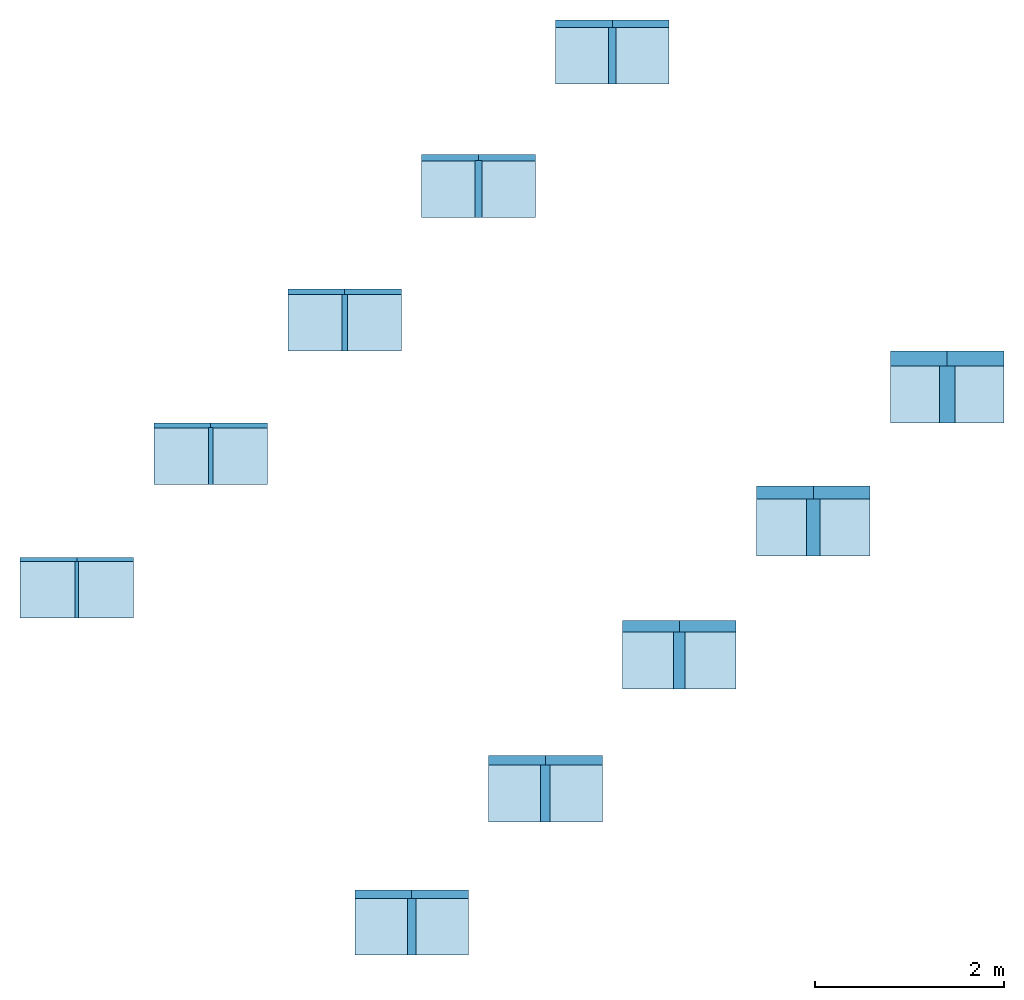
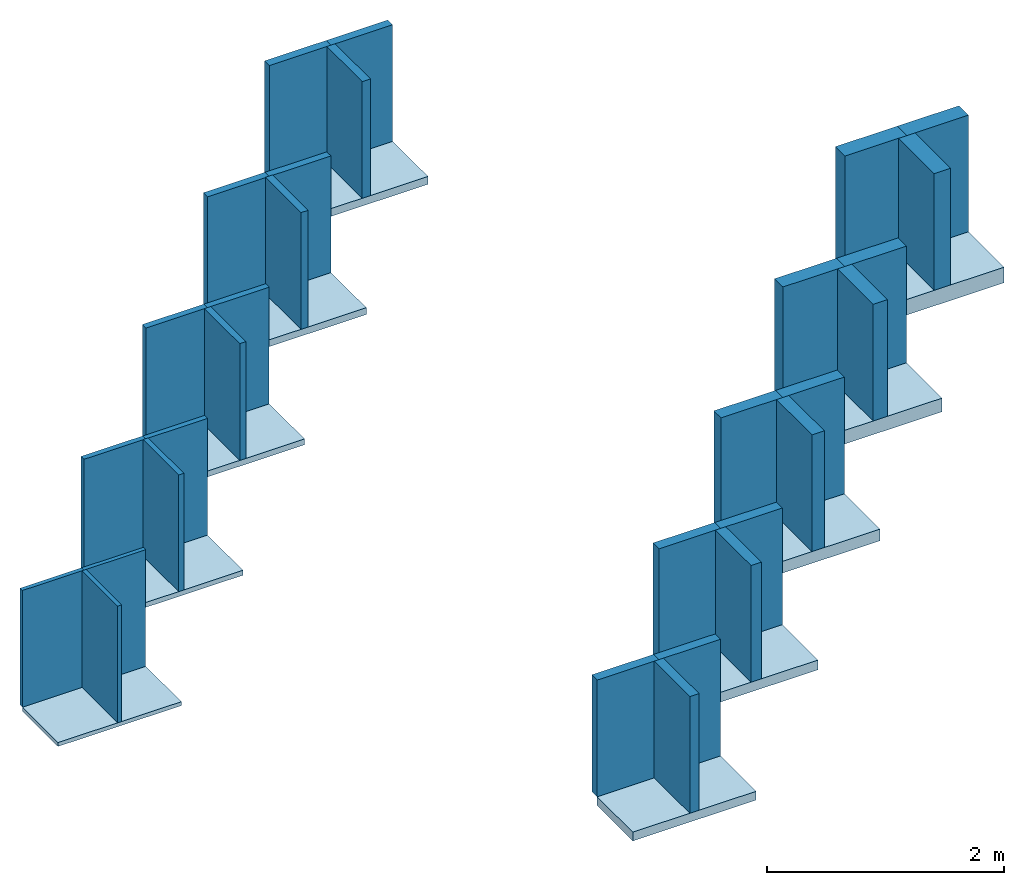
# One storey: 30 walls, 10 slabs.
"""IFC2X3 building model written with IfcOpenShell, lengths in millimetres."""

from ifc_helpers import new_model, entity, si_unit, converted_unit, derived_unit, direction, frame, frame_2d, origin, origin_2d_with_axis, place, context, subcontext, project, spatial, rectangle, extrude, material, layer, layer_set, layer_usage, type_object, element, save


model = new_model("IFC2X3")

# Units and contexts
model_context = context("Model", 3, precision=0.01, world=origin(), true_north=direction((6.12303176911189e-17, 1.0)))
context_of_model = context(None, 3, precision=0.01, world=origin(), true_north=direction((6.12303176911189e-17, 1.0)))
body_context = subcontext(model_context, "Body", "Model", "MODEL_VIEW")
ifc_project = project(units=[si_unit("LENGTHUNIT", "METRE", prefix="MILLI"), si_unit("AREAUNIT", "SQUARE_METRE"), si_unit("VOLUMEUNIT", "CUBIC_METRE"), converted_unit("PLANEANGLEUNIT", "DEGREE", entity("IfcRatioMeasure", 0.0174532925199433), si_unit("PLANEANGLEUNIT", "RADIAN"), dimensions=[0, 0, 0, 0, 0, 0, 0]), si_unit("MASSUNIT", "GRAM", prefix="KILO"), derived_unit("MASSDENSITYUNIT", [(si_unit("MASSUNIT", "GRAM", prefix="KILO"), 1), (si_unit("LENGTHUNIT", "METRE"), -3)]), derived_unit("MOMENTOFINERTIAUNIT", [(si_unit("LENGTHUNIT", "METRE"), 4)]), si_unit("TIMEUNIT", "SECOND"), si_unit("FREQUENCYUNIT", "HERTZ"), si_unit("THERMODYNAMICTEMPERATUREUNIT", "DEGREE_CELSIUS"), derived_unit("THERMALTRANSMITTANCEUNIT", [(si_unit("MASSUNIT", "GRAM", prefix="KILO"), 1), (si_unit("THERMODYNAMICTEMPERATUREUNIT", "KELVIN"), -1), (si_unit("TIMEUNIT", "SECOND"), -3)]), derived_unit("VOLUMETRICFLOWRATEUNIT", [(si_unit("LENGTHUNIT", "METRE"), 3), (si_unit("TIMEUNIT", "SECOND"), -1)]), si_unit("ELECTRICCURRENTUNIT", "AMPERE"), si_unit("ELECTRICVOLTAGEUNIT", "VOLT"), si_unit("POWERUNIT", "WATT"), si_unit("FORCEUNIT", "NEWTON", prefix="KILO"), si_unit("ILLUMINANCEUNIT", "LUX"), si_unit("LUMINOUSFLUXUNIT", "LUMEN"), si_unit("LUMINOUSINTENSITYUNIT", "CANDELA"), derived_unit("USERDEFINED", [(si_unit("MASSUNIT", "GRAM", prefix="KILO"), -1), (si_unit("LENGTHUNIT", "METRE"), -2), (si_unit("TIMEUNIT", "SECOND"), 3), (si_unit("LUMINOUSFLUXUNIT", "LUMEN"), 1)]), derived_unit("LINEARVELOCITYUNIT", [(si_unit("LENGTHUNIT", "METRE"), 1), (si_unit("TIMEUNIT", "SECOND"), -1)]), si_unit("PRESSUREUNIT", "PASCAL"), derived_unit("USERDEFINED", [(si_unit("LENGTHUNIT", "METRE"), -2), (si_unit("MASSUNIT", "GRAM", prefix="KILO"), 1), (si_unit("TIMEUNIT", "SECOND"), -2)]), derived_unit("LINEARFORCEUNIT", [(si_unit("MASSUNIT", "GRAM", prefix="KILO"), 1), (si_unit("LENGTHUNIT", "METRE"), 1), (si_unit("TIMEUNIT", "SECOND"), -2), (si_unit("LENGTHUNIT", "METRE"), -1)]), derived_unit("PLANARFORCEUNIT", [(si_unit("MASSUNIT", "GRAM", prefix="KILO"), 1), (si_unit("LENGTHUNIT", "METRE"), 1), (si_unit("TIMEUNIT", "SECOND"), -2), (si_unit("LENGTHUNIT", "METRE"), -2)])], contexts=[model_context, context_of_model])

# Site, building, storey
site_placement = place(None, origin())
site = spatial("IfcSite", under=ifc_project, at=site_placement, Name="Default", CompositionType="ELEMENT")
building_placement = place(site_placement, origin())
building = spatial("IfcBuilding", under=site, at=building_placement, CompositionType="ELEMENT")
storey_placement = place(building_placement, origin())
storey = spatial("IfcBuildingStorey", under=building, at=storey_placement, Name="Begane grond", CompositionType="ELEMENT", Elevation=0.0)

# Slabs
ifc_material = material(Name="Knauf Insulation_Ecose® steenwol Rock4All")
ifc_layer_1 = layer(ifc_material, 40.0)
ifc_layer_set_1 = layer_set([ifc_layer_1], Name="Floor:NLRS_23_FL_Rock4all_40x600x1200mm")
ifc_layer_usage_1 = layer_usage(ifc_layer_set_1, "AXIS3", "POSITIVE", 0.0)
slab_type_1 = type_object("IfcSlabType", Name="Floor:NLRS_23_FL_Rock4all_40x600x1200mm", PredefinedType="FLOOR", material=ifc_layer_set_1)
slab_1_placement = place(storey_placement, origin())
element("IfcSlab", 1, at=slab_1_placement, inside=storey, type_object=slab_type_1, material=ifc_layer_usage_1, Name="Floor:NLRS_23_FL_Rock4all_40x600x1200mm:2452", ObjectType="Floor:NLRS_23_FL_Rock4all_40x600x1200mm", PredefinedType="FLOOR", context=body_context, shape_type="SweptSolid", body=[
    extrude(rectangle(XDim=599.999999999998, YDim=1200.0, at=frame_2d((1.13686837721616e-13, 0.0), x_axis=(1.0, 0.0))), frame((1546.63638593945, 2173.76259721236, 0.0), z_axis=(0.0, 0.0, -1.0), x_axis=(0.0, 1.0, 0.0)), (0.0, 0.0, 1.0), 40.0),
])
ifc_layer_2 = layer(ifc_material, 50.0)
ifc_layer_set_2 = layer_set([ifc_layer_2], Name="Floor:NLRS_23_FL_Rock4all_50x600x1200mm")
ifc_layer_usage_2 = layer_usage(ifc_layer_set_2, "AXIS3", "POSITIVE", 0.0)
slab_type_2 = type_object("IfcSlabType", Name="Floor:NLRS_23_FL_Rock4all_50x600x1200mm", PredefinedType="FLOOR", material=ifc_layer_set_2)
slab_2_placement = place(storey_placement, origin())
element("IfcSlab", 2, at=slab_2_placement, inside=storey, type_object=slab_type_2, material=ifc_layer_usage_2, Name="Floor:NLRS_23_FL_Rock4all_50x600x1200mm:2487", ObjectType="Floor:NLRS_23_FL_Rock4all_50x600x1200mm", PredefinedType="FLOOR", context=body_context, shape_type="SweptSolid", body=[
    extrude(rectangle(XDim=599.999999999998, YDim=1200.0, at=frame_2d((0.0, -2.27373675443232e-13), x_axis=(1.0, 0.0))), frame((2960.84994831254, 3585.47615958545, 0.0), z_axis=(0.0, 0.0, -1.0), x_axis=(0.0, 1.0, 0.0)), (0.0, 0.0, 1.0), 50.0),
])
ifc_layer_3 = layer(ifc_material, 60.0)
ifc_layer_set_3 = layer_set([ifc_layer_3], Name="Floor:NLRS_23_FL_Rock4all_60x600x1200mm")
ifc_layer_usage_3 = layer_usage(ifc_layer_set_3, "AXIS3", "POSITIVE", 0.0)
slab_type_3 = type_object("IfcSlabType", Name="Floor:NLRS_23_FL_Rock4all_60x600x1200mm", PredefinedType="FLOOR", material=ifc_layer_set_3)
slab_3_placement = place(storey_placement, origin())
element("IfcSlab", 3, at=slab_3_placement, inside=storey, type_object=slab_type_3, material=ifc_layer_usage_3, Name="Floor:NLRS_23_FL_Rock4all_60x600x1200mm:2494", ObjectType="Floor:NLRS_23_FL_Rock4all_60x600x1200mm", PredefinedType="FLOOR", context=body_context, shape_type="SweptSolid", body=[
    extrude(rectangle(XDim=599.999999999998, YDim=1200.0, at=frame_2d((-2.8421709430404e-13, 0.0), x_axis=(1.0, 0.0))), frame((4375.06351068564, 4997.18972195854, 0.0), z_axis=(0.0, 0.0, -1.0), x_axis=(0.0, 1.0, 0.0)), (0.0, 0.0, 1.0), 60.0),
])
ifc_layer_4 = layer(ifc_material, 70.0)
ifc_layer_set_4 = layer_set([ifc_layer_4], Name="Floor:NLRS_23_FL_Rock4all_70x600x1200mm")
ifc_layer_usage_4 = layer_usage(ifc_layer_set_4, "AXIS3", "POSITIVE", 0.0)
slab_type_4 = type_object("IfcSlabType", Name="Floor:NLRS_23_FL_Rock4all_70x600x1200mm", PredefinedType="FLOOR", material=ifc_layer_set_4)
slab_4_placement = place(storey_placement, origin())
element("IfcSlab", 4, at=slab_4_placement, inside=storey, type_object=slab_type_4, material=ifc_layer_usage_4, Name="Floor:NLRS_23_FL_Rock4all_70x600x1200mm:2501", ObjectType="Floor:NLRS_23_FL_Rock4all_70x600x1200mm", PredefinedType="FLOOR", context=body_context, shape_type="SweptSolid", body=[
    extrude(rectangle(XDim=599.999999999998, YDim=1200.0, at=frame_2d((0.0, -5.11590769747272e-13), x_axis=(1.0, 0.0))), frame((5789.27707305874, 6406.40328433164, 0.0), z_axis=(0.0, 0.0, -1.0), x_axis=(0.0, 1.0, 0.0)), (0.0, 0.0, 1.0), 70.0),
])
ifc_layer_5 = layer(ifc_material, 80.0)
ifc_layer_set_5 = layer_set([ifc_layer_5], Name="Floor:NLRS_23_FL_Rock4all_80x600x1200mm")
ifc_layer_usage_5 = layer_usage(ifc_layer_set_5, "AXIS3", "POSITIVE", 0.0)
slab_type_5 = type_object("IfcSlabType", Name="Floor:NLRS_23_FL_Rock4all_80x600x1200mm", PredefinedType="FLOOR", material=ifc_layer_set_5)
slab_5_placement = place(storey_placement, origin())
element("IfcSlab", 5, at=slab_5_placement, inside=storey, type_object=slab_type_5, material=ifc_layer_usage_5, Name="Floor:NLRS_23_FL_Rock4all_80x600x1200mm:4345", ObjectType="Floor:NLRS_23_FL_Rock4all_80x600x1200mm", PredefinedType="FLOOR", context=body_context, shape_type="SweptSolid", body=[
    extrude(rectangle(XDim=600.0, YDim=1200.0, at=frame_2d((0.0, 5.11590769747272e-13), x_axis=(1.0, 0.0))), frame((7203.49063543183, 7815.61684670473, 0.0), z_axis=(0.0, 0.0, -1.0), x_axis=(0.0, 1.0, 0.0)), (0.0, 0.0, 1.0), 80.0),
])
ifc_layer_6 = layer(ifc_material, 90.0)
ifc_layer_set_6 = layer_set([ifc_layer_6], Name="Floor:NLRS_23_FL_Rock4all_90x600x1200mm")
ifc_layer_usage_6 = layer_usage(ifc_layer_set_6, "AXIS3", "POSITIVE", 0.0)
slab_type_6 = type_object("IfcSlabType", Name="Floor:NLRS_23_FL_Rock4all_90x600x1200mm", PredefinedType="FLOOR", material=ifc_layer_set_6)
slab_6_placement = place(storey_placement, origin())
element("IfcSlab", 6, at=slab_6_placement, inside=storey, type_object=slab_type_6, material=ifc_layer_usage_6, Name="Floor:NLRS_23_FL_Rock4all_90x600x1200mm:4387", ObjectType="Floor:NLRS_23_FL_Rock4all_90x600x1200mm", PredefinedType="FLOOR", context=body_context, shape_type="SweptSolid", body=[
    extrude(rectangle(XDim=600.0, YDim=1200.0, at=frame_2d((8.5265128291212e-14, 0.0), x_axis=(1.0, 0.0))), frame((5082.17029187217, -1386.77130872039, 0.0), z_axis=(0.0, 0.0, -1.0), x_axis=(0.0, 1.0, 0.0)), (0.0, 0.0, 1.0), 90.0),
])
ifc_layer_7 = layer(ifc_material, 100.0)
ifc_layer_set_7 = layer_set([ifc_layer_7], Name="Floor:NLRS_23_FL_Rock4all_100x600x1200mm")
ifc_layer_usage_7 = layer_usage(ifc_layer_set_7, "AXIS3", "POSITIVE", 0.0)
slab_type_7 = type_object("IfcSlabType", Name="Floor:NLRS_23_FL_Rock4all_100x600x1200mm", PredefinedType="FLOOR", material=ifc_layer_set_7)
slab_7_placement = place(storey_placement, origin())
element("IfcSlab", 7, at=slab_7_placement, inside=storey, type_object=slab_type_7, material=ifc_layer_usage_7, Name="Floor:NLRS_23_FL_Rock4all_100x600x1200mm:4768", ObjectType="Floor:NLRS_23_FL_Rock4all_100x600x1200mm", PredefinedType="FLOOR", context=body_context, shape_type="SweptSolid", body=[
    extrude(rectangle(XDim=600.0, YDim=1200.0, at=origin_2d_with_axis()), frame((6496.38385424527, 22.4422536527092, 0.0), z_axis=(0.0, 0.0, -1.0), x_axis=(0.0, 1.0, 0.0)), (0.0, 0.0, 1.0), 100.0),
])
ifc_layer_8 = layer(ifc_material, 120.0)
ifc_layer_set_8 = layer_set([ifc_layer_8], Name="Floor:NLRS_23_FL_Rock4all_120x600x1200mm")
ifc_layer_usage_8 = layer_usage(ifc_layer_set_8, "AXIS3", "POSITIVE", 0.0)
slab_type_8 = type_object("IfcSlabType", Name="Floor:NLRS_23_FL_Rock4all_120x600x1200mm", PredefinedType="FLOOR", material=ifc_layer_set_8)
slab_8_placement = place(storey_placement, origin())
element("IfcSlab", 8, at=slab_8_placement, inside=storey, type_object=slab_type_8, material=ifc_layer_usage_8, Name="Floor:NLRS_23_FL_Rock4all_120x600x1200mm:4821", ObjectType="Floor:NLRS_23_FL_Rock4all_120x600x1200mm", PredefinedType="FLOOR", context=body_context, shape_type="SweptSolid", body=[
    extrude(rectangle(XDim=600.0, YDim=1200.0, at=origin_2d_with_axis()), frame((7910.59741661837, 1426.6558160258, 0.0), z_axis=(0.0, 0.0, -1.0), x_axis=(0.0, 1.0, 0.0)), (0.0, 0.0, 1.0), 120.0),
])
ifc_layer_9 = layer(ifc_material, 140.0)
ifc_layer_set_9 = layer_set([ifc_layer_9], Name="Floor:NLRS_23_FL_Rock4all_140x600x1200mm")
ifc_layer_usage_9 = layer_usage(ifc_layer_set_9, "AXIS3", "POSITIVE", 0.0)
slab_type_9 = type_object("IfcSlabType", Name="Floor:NLRS_23_FL_Rock4all_140x600x1200mm", PredefinedType="FLOOR", material=ifc_layer_set_9)
slab_9_placement = place(storey_placement, origin())
element("IfcSlab", 9, at=slab_9_placement, inside=storey, type_object=slab_type_9, material=ifc_layer_usage_9, Name="Floor:NLRS_23_FL_Rock4all_140x600x1200mm:4830", ObjectType="Floor:NLRS_23_FL_Rock4all_140x600x1200mm", PredefinedType="FLOOR", context=body_context, shape_type="SweptSolid", body=[
    extrude(rectangle(XDim=600.0, YDim=1200.0, at=origin_2d_with_axis()), frame((9324.81097899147, 2830.86937839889, 0.0), z_axis=(0.0, 0.0, -1.0), x_axis=(0.0, 1.0, 0.0)), (0.0, 0.0, 1.0), 140.0),
])
ifc_layer_10 = layer(ifc_material, 160.0)
ifc_layer_set_10 = layer_set([ifc_layer_10], Name="Floor:NLRS_23_FL_Rock4all_160x600x1200mm")
ifc_layer_usage_10 = layer_usage(ifc_layer_set_10, "AXIS3", "POSITIVE", 0.0)
slab_type_10 = type_object("IfcSlabType", Name="Floor:NLRS_23_FL_Rock4all_160x600x1200mm", PredefinedType="FLOOR", material=ifc_layer_set_10)
slab_10_placement = place(storey_placement, origin())
element("IfcSlab", 10, at=slab_10_placement, inside=storey, type_object=slab_type_10, material=ifc_layer_usage_10, Name="Floor:NLRS_23_FL_Rock4all_160x600x1200mm:4839", ObjectType="Floor:NLRS_23_FL_Rock4all_160x600x1200mm", PredefinedType="FLOOR", context=body_context, shape_type="SweptSolid", body=[
    extrude(rectangle(XDim=600.0, YDim=1200.0, at=origin_2d_with_axis()), frame((10739.0245413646, 4235.08294077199, 0.0), z_axis=(0.0, 0.0, -1.0), x_axis=(0.0, 1.0, 0.0)), (0.0, 0.0, 1.0), 160.0),
])

# Walls
ifc_layer_11 = layer(ifc_material, 40.0)
ifc_layer_set_11 = layer_set([ifc_layer_11], Name="Basic Wall:NLRS_22_WA__Rock4all_40x600x1200mm")
ifc_layer_usage_11 = layer_usage(ifc_layer_set_11, "AXIS2", "NEGATIVE", 20.0)
wall_type_1 = type_object("IfcWallType", Name="Basic Wall:NLRS_22_WA__Rock4all_40x600x1200mm", PredefinedType="STANDARD", material=ifc_layer_set_11)
wall_1_placement = place(storey_placement, frame((946.636385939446, 2493.76259721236, 0.0)))
element("IfcWallStandardCase", 11, at=wall_1_placement, inside=storey, type_object=wall_type_1, material=ifc_layer_usage_11, Name="Basic Wall:NLRS_22_WA__Rock4all_40x600x1200mm:2447", ObjectType="Basic Wall:NLRS_22_WA__Rock4all_40x600x1200mm", context=body_context, shape_type="SweptSolid", body=[
    extrude(rectangle(XDim=600.0, YDim=39.9999999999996, at=frame_2d((300.0, -1.35003119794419e-13), x_axis=(-1.0, 0.0))), origin(), (0.0, 0.0, 1.0), 1200.0),
])
ifc_layer_usage_12 = layer_usage(ifc_layer_set_11, "AXIS2", "NEGATIVE", 20.0)
wall_2_placement = place(storey_placement, frame((1546.63638593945, 2473.76259721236, 0.0), z_axis=(0.0, 0.0, 1.0), x_axis=(0.0, -1.0, 0.0)))
element("IfcWallStandardCase", 12, at=wall_2_placement, inside=storey, type_object=wall_type_1, material=ifc_layer_usage_12, Name="Basic Wall:NLRS_22_WA__Rock4all_40x600x1200mm:2448", ObjectType="Basic Wall:NLRS_22_WA__Rock4all_40x600x1200mm", context=body_context, shape_type="SweptSolid", body=[
    extrude(rectangle(XDim=600.0, YDim=40.0000000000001, at=frame_2d((300.0, 5.50670620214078e-14), x_axis=(-1.0, 0.0))), origin(), (0.0, 0.0, 1.0), 1200.0),
])
ifc_layer_usage_13 = layer_usage(ifc_layer_set_11, "AXIS2", "NEGATIVE", 20.0)
wall_3_placement = place(storey_placement, frame((1546.63638593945, 2493.76259721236, 0.0)))
element("IfcWallStandardCase", 13, at=wall_3_placement, inside=storey, type_object=wall_type_1, material=ifc_layer_usage_13, Name="Basic Wall:NLRS_22_WA__Rock4all_40x600x1200mm:2457", ObjectType="Basic Wall:NLRS_22_WA__Rock4all_40x600x1200mm", context=body_context, shape_type="SweptSolid", body=[
    extrude(rectangle(XDim=600.0, YDim=39.9999999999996, at=frame_2d((300.0, -1.35003119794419e-13), x_axis=(-1.0, 0.0))), origin(), (0.0, 0.0, 1.0), 1200.0),
])
ifc_layer_12 = layer(ifc_material, 50.0)
ifc_layer_set_12 = layer_set([ifc_layer_12], Name="Basic Wall:NLRS_22_WA_Rock4all_50xx600x1200mm")
ifc_layer_usage_14 = layer_usage(ifc_layer_set_12, "AXIS2", "NEGATIVE", 25.0)
wall_type_2 = type_object("IfcWallType", Name="Basic Wall:NLRS_22_WA_Rock4all_50xx600x1200mm", PredefinedType="STANDARD", material=ifc_layer_set_12)
wall_4_placement = place(storey_placement, frame((2360.84994831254, 3907.97615958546, 0.0)))
element("IfcWallStandardCase", 14, at=wall_4_placement, inside=storey, type_object=wall_type_2, material=ifc_layer_usage_14, Name="Basic Wall:NLRS_22_WA_Rock4all_50xx600x1200mm:2458", ObjectType="Basic Wall:NLRS_22_WA_Rock4all_50xx600x1200mm", context=body_context, shape_type="SweptSolid", body=[
    extrude(rectangle(XDim=600.0, YDim=50.0000000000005, at=frame_2d((300.0, -1.36779476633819e-13), x_axis=(-1.0, 0.0))), origin(), (0.0, 0.0, 1.0), 1200.0),
])
ifc_layer_usage_15 = layer_usage(ifc_layer_set_12, "AXIS2", "NEGATIVE", 25.0)
wall_5_placement = place(storey_placement, frame((2960.84994831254, 3885.47615958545, 0.0), z_axis=(0.0, 0.0, 1.0), x_axis=(0.0, -1.0, 0.0)))
element("IfcWallStandardCase", 15, at=wall_5_placement, inside=storey, type_object=wall_type_2, material=ifc_layer_usage_15, Name="Basic Wall:NLRS_22_WA_Rock4all_50xx600x1200mm:2459", ObjectType="Basic Wall:NLRS_22_WA_Rock4all_50xx600x1200mm", context=body_context, shape_type="SweptSolid", body=[
    extrude(rectangle(XDim=600.0, YDim=49.9999999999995, at=frame_2d((300.0, -6.75015598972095e-14), x_axis=(-1.0, 0.0))), origin(), (0.0, 0.0, 1.0), 1200.0),
])
ifc_layer_usage_16 = layer_usage(ifc_layer_set_12, "AXIS2", "NEGATIVE", 25.0)
wall_6_placement = place(storey_placement, frame((2960.84994831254, 3907.97615958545, 0.0)))
element("IfcWallStandardCase", 16, at=wall_6_placement, inside=storey, type_object=wall_type_2, material=ifc_layer_usage_16, Name="Basic Wall:NLRS_22_WA_Rock4all_50xx600x1200mm:2460", ObjectType="Basic Wall:NLRS_22_WA_Rock4all_50xx600x1200mm", context=body_context, shape_type="SweptSolid", body=[
    extrude(rectangle(XDim=600.0, YDim=50.0000000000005, at=frame_2d((300.0, -1.36779476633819e-13), x_axis=(-1.0, 0.0))), origin(), (0.0, 0.0, 1.0), 1200.0),
])
ifc_layer_13 = layer(ifc_material, 60.0)
ifc_layer_set_13 = layer_set([ifc_layer_13], Name="Basic Wall:NLRS_22_WA__Rock4all_60x600x1200mm")
ifc_layer_usage_17 = layer_usage(ifc_layer_set_13, "AXIS2", "NEGATIVE", 30.0)
wall_type_3 = type_object("IfcWallType", Name="Basic Wall:NLRS_22_WA__Rock4all_60x600x1200mm", PredefinedType="STANDARD", material=ifc_layer_set_13)
wall_7_placement = place(storey_placement, frame((3775.06351068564, 5322.18972195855, 0.0)))
element("IfcWallStandardCase", 17, at=wall_7_placement, inside=storey, type_object=wall_type_3, material=ifc_layer_usage_17, Name="Basic Wall:NLRS_22_WA__Rock4all_60x600x1200mm:2461", ObjectType="Basic Wall:NLRS_22_WA__Rock4all_60x600x1200mm", context=body_context, shape_type="SweptSolid", body=[
    extrude(rectangle(XDim=600.0, YDim=59.9999999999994, at=frame_2d((300.0, -1.35003119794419e-13), x_axis=(-1.0, 0.0))), origin(), (0.0, 0.0, 1.0), 1200.0),
])
ifc_layer_usage_18 = layer_usage(ifc_layer_set_13, "AXIS2", "NEGATIVE", 30.0)
wall_8_placement = place(storey_placement, frame((4375.06351068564, 5297.18972195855, 0.0), z_axis=(0.0, 0.0, 1.0), x_axis=(0.0, -1.0, 0.0)))
element("IfcWallStandardCase", 18, at=wall_8_placement, inside=storey, type_object=wall_type_3, material=ifc_layer_usage_18, Name="Basic Wall:NLRS_22_WA__Rock4all_60x600x1200mm:2462", ObjectType="Basic Wall:NLRS_22_WA__Rock4all_60x600x1200mm", context=body_context, shape_type="SweptSolid", body=[
    extrude(rectangle(XDim=600.0, YDim=60.0000000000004, at=frame_2d((300.0, -6.92779167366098e-14), x_axis=(-1.0, 0.0))), origin(), (0.0, 0.0, 1.0), 1200.0),
])
ifc_layer_usage_19 = layer_usage(ifc_layer_set_13, "AXIS2", "NEGATIVE", 30.0)
wall_9_placement = place(storey_placement, frame((4375.06351068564, 5322.18972195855, 0.0)))
element("IfcWallStandardCase", 19, at=wall_9_placement, inside=storey, type_object=wall_type_3, material=ifc_layer_usage_19, Name="Basic Wall:NLRS_22_WA__Rock4all_60x600x1200mm:2463", ObjectType="Basic Wall:NLRS_22_WA__Rock4all_60x600x1200mm", context=body_context, shape_type="SweptSolid", body=[
    extrude(rectangle(XDim=600.0, YDim=59.9999999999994, at=frame_2d((300.0, -1.35003119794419e-13), x_axis=(-1.0, 0.0))), origin(), (0.0, 0.0, 1.0), 1200.0),
])
ifc_layer_14 = layer(ifc_material, 70.0)
ifc_layer_set_14 = layer_set([ifc_layer_14], Name="Basic Wall:NLRS_22_WA_Rock4all_70x600x1200mm")
ifc_layer_usage_20 = layer_usage(ifc_layer_set_14, "AXIS2", "NEGATIVE", 35.0)
wall_type_4 = type_object("IfcWallType", Name="Basic Wall:NLRS_22_WA_Rock4all_70x600x1200mm", PredefinedType="STANDARD", material=ifc_layer_set_14)
wall_10_placement = place(storey_placement, frame((5189.27707305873, 6736.40328433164, 0.0)))
element("IfcWallStandardCase", 20, at=wall_10_placement, inside=storey, type_object=wall_type_4, material=ifc_layer_usage_20, Name="Basic Wall:NLRS_22_WA_Rock4all_70x600x1200mm:2464", ObjectType="Basic Wall:NLRS_22_WA_Rock4all_70x600x1200mm", context=body_context, shape_type="SweptSolid", body=[
    extrude(rectangle(XDim=599.999999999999, YDim=69.9999999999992, at=frame_2d((299.999999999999, -1.35003119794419e-13), x_axis=(-1.0, 0.0))), origin(), (0.0, 0.0, 1.0), 1200.0),
])
ifc_layer_usage_21 = layer_usage(ifc_layer_set_14, "AXIS2", "NEGATIVE", 35.0)
wall_11_placement = place(storey_placement, frame((5789.27707305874, 6706.40328433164, 0.0), z_axis=(0.0, 0.0, 1.0), x_axis=(0.0, -1.0, 0.0)))
element("IfcWallStandardCase", 21, at=wall_11_placement, inside=storey, type_object=wall_type_4, material=ifc_layer_usage_21, Name="Basic Wall:NLRS_22_WA_Rock4all_70x600x1200mm:2465", ObjectType="Basic Wall:NLRS_22_WA_Rock4all_70x600x1200mm", context=body_context, shape_type="SweptSolid", body=[
    extrude(rectangle(XDim=600.0, YDim=69.9999999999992, at=frame_2d((300.0, -6.75015598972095e-14), x_axis=(-1.0, 0.0))), origin(), (0.0, 0.0, 1.0), 1200.0),
])
ifc_layer_usage_22 = layer_usage(ifc_layer_set_14, "AXIS2", "NEGATIVE", 35.0)
wall_12_placement = place(storey_placement, frame((5789.27707305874, 6736.40328433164, 0.0)))
element("IfcWallStandardCase", 22, at=wall_12_placement, inside=storey, type_object=wall_type_4, material=ifc_layer_usage_22, Name="Basic Wall:NLRS_22_WA_Rock4all_70x600x1200mm:2466", ObjectType="Basic Wall:NLRS_22_WA_Rock4all_70x600x1200mm", context=body_context, shape_type="SweptSolid", body=[
    extrude(rectangle(XDim=599.999999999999, YDim=69.9999999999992, at=frame_2d((299.999999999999, -1.35003119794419e-13), x_axis=(-1.0, 0.0))), origin(), (0.0, 0.0, 1.0), 1200.0),
])
ifc_layer_15 = layer(ifc_material, 80.0)
ifc_layer_set_15 = layer_set([ifc_layer_15], Name="Basic Wall:NLRS_22_WA_Rock4all_80x600x1200mm")
ifc_layer_usage_23 = layer_usage(ifc_layer_set_15, "AXIS2", "NEGATIVE", 40.0)
wall_type_5 = type_object("IfcWallType", Name="Basic Wall:NLRS_22_WA_Rock4all_80x600x1200mm", PredefinedType="STANDARD", material=ifc_layer_set_15)
wall_13_placement = place(storey_placement, frame((6603.49063543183, 8150.61684670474, 0.0)))
element("IfcWallStandardCase", 23, at=wall_13_placement, inside=storey, type_object=wall_type_5, material=ifc_layer_usage_23, Name="Basic Wall:NLRS_22_WA_Rock4all_80x600x1200mm:2467", ObjectType="Basic Wall:NLRS_22_WA_Rock4all_80x600x1200mm", context=body_context, shape_type="SweptSolid", body=[
    extrude(rectangle(XDim=599.999999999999, YDim=79.9999999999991, at=frame_2d((299.999999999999, -1.35003119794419e-13), x_axis=(-1.0, 0.0))), origin(), (0.0, 0.0, 1.0), 1200.0),
])
ifc_layer_usage_24 = layer_usage(ifc_layer_set_15, "AXIS2", "NEGATIVE", 40.0)
wall_14_placement = place(storey_placement, frame((7203.49063543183, 8115.61684670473, 0.0), z_axis=(0.0, 0.0, 1.0), x_axis=(0.0, -1.0, 0.0)))
element("IfcWallStandardCase", 24, at=wall_14_placement, inside=storey, type_object=wall_type_5, material=ifc_layer_usage_24, Name="Basic Wall:NLRS_22_WA_Rock4all_80x600x1200mm:2468", ObjectType="Basic Wall:NLRS_22_WA_Rock4all_80x600x1200mm", context=body_context, shape_type="SweptSolid", body=[
    extrude(rectangle(XDim=600.0, YDim=79.9999999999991, at=frame_2d((300.0, -6.75015598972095e-14), x_axis=(-1.0, 0.0))), origin(), (0.0, 0.0, 1.0), 1200.0),
])
ifc_layer_usage_25 = layer_usage(ifc_layer_set_15, "AXIS2", "NEGATIVE", 40.0)
wall_15_placement = place(storey_placement, frame((7203.49063543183, 8150.61684670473, 0.0)))
element("IfcWallStandardCase", 25, at=wall_15_placement, inside=storey, type_object=wall_type_5, material=ifc_layer_usage_25, Name="Basic Wall:NLRS_22_WA_Rock4all_80x600x1200mm:2469", ObjectType="Basic Wall:NLRS_22_WA_Rock4all_80x600x1200mm", context=body_context, shape_type="SweptSolid", body=[
    extrude(rectangle(XDim=599.999999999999, YDim=79.9999999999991, at=frame_2d((299.999999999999, -1.35003119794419e-13), x_axis=(-1.0, 0.0))), origin(), (0.0, 0.0, 1.0), 1200.0),
])
ifc_layer_16 = layer(ifc_material, 90.0)
ifc_layer_set_16 = layer_set([ifc_layer_16], Name="Basic Wall:NLRS_22_WA_Rock4all_90x100x1200mm")
ifc_layer_usage_26 = layer_usage(ifc_layer_set_16, "AXIS2", "NEGATIVE", 45.0)
wall_type_6 = type_object("IfcWallType", Name="Basic Wall:NLRS_22_WA_Rock4all_90x100x1200mm", PredefinedType="STANDARD", material=ifc_layer_set_16)
wall_16_placement = place(storey_placement, frame((4482.17029187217, -1041.77130872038, 0.0)))
element("IfcWallStandardCase", 26, at=wall_16_placement, inside=storey, type_object=wall_type_6, material=ifc_layer_usage_26, Name="Basic Wall:NLRS_22_WA_Rock4all_90x100x1200mm:2470", ObjectType="Basic Wall:NLRS_22_WA_Rock4all_90x100x1200mm", context=body_context, shape_type="SweptSolid", body=[
    extrude(rectangle(XDim=600.0, YDim=90.0000000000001, at=frame_2d((300.0, 0.0), x_axis=(-1.0, 0.0))), origin(), (0.0, 0.0, 1.0), 1200.0),
])
ifc_layer_usage_27 = layer_usage(ifc_layer_set_16, "AXIS2", "NEGATIVE", 45.0)
wall_17_placement = place(storey_placement, frame((5082.17029187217, -1086.77130872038, 0.0), z_axis=(0.0, 0.0, 1.0), x_axis=(0.0, -1.0, 0.0)))
element("IfcWallStandardCase", 27, at=wall_17_placement, inside=storey, type_object=wall_type_6, material=ifc_layer_usage_27, Name="Basic Wall:NLRS_22_WA_Rock4all_90x100x1200mm:2471", ObjectType="Basic Wall:NLRS_22_WA_Rock4all_90x100x1200mm", context=body_context, shape_type="SweptSolid", body=[
    extrude(rectangle(XDim=600.0, YDim=89.999999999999, at=frame_2d((300.0, -6.75015598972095e-14), x_axis=(-1.0, 0.0))), origin(), (0.0, 0.0, 1.0), 1200.0),
])
ifc_layer_usage_28 = layer_usage(ifc_layer_set_16, "AXIS2", "NEGATIVE", 45.0)
wall_18_placement = place(storey_placement, frame((5082.17029187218, -1041.77130872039, 0.0)))
element("IfcWallStandardCase", 28, at=wall_18_placement, inside=storey, type_object=wall_type_6, material=ifc_layer_usage_28, Name="Basic Wall:NLRS_22_WA_Rock4all_90x100x1200mm:2472", ObjectType="Basic Wall:NLRS_22_WA_Rock4all_90x100x1200mm", context=body_context, shape_type="SweptSolid", body=[
    extrude(rectangle(XDim=599.999999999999, YDim=90.0000000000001, at=frame_2d((299.999999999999, 0.0), x_axis=(-1.0, 0.0))), origin(), (0.0, 0.0, 1.0), 1200.0),
])
ifc_layer_17 = layer(ifc_material, 100.0)
ifc_layer_set_17 = layer_set([ifc_layer_17], Name="Basic Wall:NLRS_22_WA_Rock4all_100x600x1200mm")
ifc_layer_usage_29 = layer_usage(ifc_layer_set_17, "AXIS2", "NEGATIVE", 50.0)
wall_type_7 = type_object("IfcWallType", Name="Basic Wall:NLRS_22_WA_Rock4all_100x600x1200mm", PredefinedType="STANDARD", material=ifc_layer_set_17)
wall_19_placement = place(storey_placement, frame((5896.38385424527, 372.442253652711, 0.0)))
element("IfcWallStandardCase", 29, at=wall_19_placement, inside=storey, type_object=wall_type_7, material=ifc_layer_usage_29, Name="Basic Wall:NLRS_22_WA_Rock4all_100x600x1200mm:2473", ObjectType="Basic Wall:NLRS_22_WA_Rock4all_100x600x1200mm", context=body_context, shape_type="SweptSolid", body=[
    extrude(rectangle(XDim=599.999999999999, YDim=100.0, at=frame_2d((299.999999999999, 0.0), x_axis=(-1.0, 0.0))), origin(), (0.0, 0.0, 1.0), 1200.0),
])
ifc_layer_usage_30 = layer_usage(ifc_layer_set_17, "AXIS2", "NEGATIVE", 50.0)
wall_20_placement = place(storey_placement, frame((6496.38385424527, 322.442253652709, 0.0), z_axis=(0.0, 0.0, 1.0), x_axis=(0.0, -1.0, 0.0)))
element("IfcWallStandardCase", 30, at=wall_20_placement, inside=storey, type_object=wall_type_7, material=ifc_layer_usage_30, Name="Basic Wall:NLRS_22_WA_Rock4all_100x600x1200mm:2474", ObjectType="Basic Wall:NLRS_22_WA_Rock4all_100x600x1200mm", context=body_context, shape_type="SweptSolid", body=[
    extrude(rectangle(XDim=600.0, YDim=99.9999999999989, at=frame_2d((300.0, -6.75015598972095e-14), x_axis=(-1.0, 0.0))), origin(), (0.0, 0.0, 1.0), 1200.0),
])
ifc_layer_usage_31 = layer_usage(ifc_layer_set_17, "AXIS2", "NEGATIVE", 50.0)
wall_21_placement = place(storey_placement, frame((6496.38385424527, 372.442253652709, 0.0)))
element("IfcWallStandardCase", 31, at=wall_21_placement, inside=storey, type_object=wall_type_7, material=ifc_layer_usage_31, Name="Basic Wall:NLRS_22_WA_Rock4all_100x600x1200mm:2475", ObjectType="Basic Wall:NLRS_22_WA_Rock4all_100x600x1200mm", context=body_context, shape_type="SweptSolid", body=[
    extrude(rectangle(XDim=599.999999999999, YDim=100.0, at=frame_2d((299.999999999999, 0.0), x_axis=(-1.0, 0.0))), origin(), (0.0, 0.0, 1.0), 1200.0),
])
ifc_layer_18 = layer(ifc_material, 120.0)
ifc_layer_set_18 = layer_set([ifc_layer_18], Name="Basic Wall:NLRS_22_WA_Rock4all_120x600x1200mm")
ifc_layer_usage_32 = layer_usage(ifc_layer_set_18, "AXIS2", "NEGATIVE", 60.0)
wall_type_8 = type_object("IfcWallType", Name="Basic Wall:NLRS_22_WA_Rock4all_120x600x1200mm", PredefinedType="STANDARD", material=ifc_layer_set_18)
wall_22_placement = place(storey_placement, frame((7310.59741661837, 1786.6558160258, 0.0)))
element("IfcWallStandardCase", 32, at=wall_22_placement, inside=storey, type_object=wall_type_8, material=ifc_layer_usage_32, Name="Basic Wall:NLRS_22_WA_Rock4all_120x600x1200mm:2476", ObjectType="Basic Wall:NLRS_22_WA_Rock4all_120x600x1200mm", context=body_context, shape_type="SweptSolid", body=[
    extrude(rectangle(XDim=599.999999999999, YDim=120.0, at=frame_2d((299.999999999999, 0.0), x_axis=(-1.0, 0.0))), origin(), (0.0, 0.0, 1.0), 1200.0),
])
ifc_layer_usage_33 = layer_usage(ifc_layer_set_18, "AXIS2", "NEGATIVE", 60.0)
wall_23_placement = place(storey_placement, frame((7910.59741661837, 1726.6558160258, 0.0), z_axis=(0.0, 0.0, 1.0), x_axis=(0.0, -1.0, 0.0)))
element("IfcWallStandardCase", 33, at=wall_23_placement, inside=storey, type_object=wall_type_8, material=ifc_layer_usage_33, Name="Basic Wall:NLRS_22_WA_Rock4all_120x600x1200mm:2477", ObjectType="Basic Wall:NLRS_22_WA_Rock4all_120x600x1200mm", context=body_context, shape_type="SweptSolid", body=[
    extrude(rectangle(XDim=600.0, YDim=120.000000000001, at=frame_2d((300.0, -7.105427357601e-14), x_axis=(-1.0, 0.0))), origin(), (0.0, 0.0, 1.0), 1200.0),
])
ifc_layer_usage_34 = layer_usage(ifc_layer_set_18, "AXIS2", "NEGATIVE", 60.0)
wall_24_placement = place(storey_placement, frame((7910.59741661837, 1786.6558160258, 0.0)))
element("IfcWallStandardCase", 34, at=wall_24_placement, inside=storey, type_object=wall_type_8, material=ifc_layer_usage_34, Name="Basic Wall:NLRS_22_WA_Rock4all_120x600x1200mm:2478", ObjectType="Basic Wall:NLRS_22_WA_Rock4all_120x600x1200mm", context=body_context, shape_type="SweptSolid", body=[
    extrude(rectangle(XDim=599.999999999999, YDim=120.0, at=frame_2d((299.999999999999, 0.0), x_axis=(-1.0, 0.0))), origin(), (0.0, 0.0, 1.0), 1200.0),
])
ifc_layer_19 = layer(ifc_material, 140.0)
ifc_layer_set_19 = layer_set([ifc_layer_19], Name="Basic Wall:NLRS_22_WA_Rock4all_140x600x1200mm")
ifc_layer_usage_35 = layer_usage(ifc_layer_set_19, "AXIS2", "NEGATIVE", 70.0)
wall_type_9 = type_object("IfcWallType", Name="Basic Wall:NLRS_22_WA_Rock4all_140x600x1200mm", PredefinedType="STANDARD", material=ifc_layer_set_19)
wall_25_placement = place(storey_placement, frame((8724.81097899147, 3200.8693783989, 0.0)))
element("IfcWallStandardCase", 35, at=wall_25_placement, inside=storey, type_object=wall_type_9, material=ifc_layer_usage_35, Name="Basic Wall:NLRS_22_WA_Rock4all_140x600x1200mm:2479", ObjectType="Basic Wall:NLRS_22_WA_Rock4all_140x600x1200mm", context=body_context, shape_type="SweptSolid", body=[
    extrude(rectangle(XDim=599.999999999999, YDim=140.0, at=frame_2d((299.999999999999, -1.35003119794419e-13), x_axis=(-1.0, 0.0))), origin(), (0.0, 0.0, 1.0), 1200.0),
])
ifc_layer_usage_36 = layer_usage(ifc_layer_set_19, "AXIS2", "NEGATIVE", 70.0)
wall_26_placement = place(storey_placement, frame((9324.81097899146, 3130.86937839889, 0.0), z_axis=(0.0, 0.0, 1.0), x_axis=(0.0, -1.0, 0.0)))
element("IfcWallStandardCase", 36, at=wall_26_placement, inside=storey, type_object=wall_type_9, material=ifc_layer_usage_36, Name="Basic Wall:NLRS_22_WA_Rock4all_140x600x1200mm:2480", ObjectType="Basic Wall:NLRS_22_WA_Rock4all_140x600x1200mm", context=body_context, shape_type="SweptSolid", body=[
    extrude(rectangle(XDim=600.0, YDim=140.000000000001, at=frame_2d((300.0, -6.3948846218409e-14), x_axis=(-1.0, 0.0))), origin(), (0.0, 0.0, 1.0), 1200.0),
])
ifc_layer_usage_37 = layer_usage(ifc_layer_set_19, "AXIS2", "NEGATIVE", 70.0)
wall_27_placement = place(storey_placement, frame((9324.81097899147, 3200.8693783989, 0.0)))
element("IfcWallStandardCase", 37, at=wall_27_placement, inside=storey, type_object=wall_type_9, material=ifc_layer_usage_37, Name="Basic Wall:NLRS_22_WA_Rock4all_140x600x1200mm:2481", ObjectType="Basic Wall:NLRS_22_WA_Rock4all_140x600x1200mm", context=body_context, shape_type="SweptSolid", body=[
    extrude(rectangle(XDim=600.0, YDim=140.0, at=frame_2d((300.0, -1.35003119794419e-13), x_axis=(-1.0, 0.0))), origin(), (0.0, 0.0, 1.0), 1200.0),
])
ifc_layer_20 = layer(ifc_material, 160.0)
ifc_layer_set_20 = layer_set([ifc_layer_20], Name="Basic Wall:NLRS_22_WA_Rock4all_160x600x1200mm")
ifc_layer_usage_38 = layer_usage(ifc_layer_set_20, "AXIS2", "NEGATIVE", 80.0)
wall_type_10 = type_object("IfcWallType", Name="Basic Wall:NLRS_22_WA_Rock4all_160x600x1200mm", PredefinedType="STANDARD", material=ifc_layer_set_20)
wall_28_placement = place(storey_placement, frame((10139.0245413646, 4615.08294077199, 0.0)))
element("IfcWallStandardCase", 38, at=wall_28_placement, inside=storey, type_object=wall_type_10, material=ifc_layer_usage_38, Name="Basic Wall:NLRS_22_WA_Rock4all_160x600x1200mm:2482", ObjectType="Basic Wall:NLRS_22_WA_Rock4all_160x600x1200mm", context=body_context, shape_type="SweptSolid", body=[
    extrude(rectangle(XDim=600.0, YDim=160.0, at=frame_2d((300.0, -1.35003119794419e-13), x_axis=(-1.0, 0.0))), origin(), (0.0, 0.0, 1.0), 1200.0),
])
ifc_layer_usage_39 = layer_usage(ifc_layer_set_20, "AXIS2", "NEGATIVE", 80.0)
wall_29_placement = place(storey_placement, frame((10739.0245413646, 4535.08294077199, 0.0), z_axis=(0.0, 0.0, 1.0), x_axis=(0.0, -1.0, 0.0)))
element("IfcWallStandardCase", 39, at=wall_29_placement, inside=storey, type_object=wall_type_10, material=ifc_layer_usage_39, Name="Basic Wall:NLRS_22_WA_Rock4all_160x600x1200mm:2483", ObjectType="Basic Wall:NLRS_22_WA_Rock4all_160x600x1200mm", context=body_context, shape_type="SweptSolid", body=[
    extrude(rectangle(XDim=600.0, YDim=159.999999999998, at=frame_2d((300.0, 4.76063632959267e-13), x_axis=(-1.0, 0.0))), origin(), (0.0, 0.0, 1.0), 1200.0),
])
ifc_layer_usage_40 = layer_usage(ifc_layer_set_20, "AXIS2", "NEGATIVE", 80.0)
wall_30_placement = place(storey_placement, frame((10739.0245413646, 4615.08294077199, 0.0)))
element("IfcWallStandardCase", 40, at=wall_30_placement, inside=storey, type_object=wall_type_10, material=ifc_layer_usage_40, Name="Basic Wall:NLRS_22_WA_Rock4all_160x600x1200mm:2484", ObjectType="Basic Wall:NLRS_22_WA_Rock4all_160x600x1200mm", context=body_context, shape_type="SweptSolid", body=[
    extrude(rectangle(XDim=600.0, YDim=160.0, at=frame_2d((300.0, -1.35003119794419e-13), x_axis=(-1.0, 0.0))), origin(), (0.0, 0.0, 1.0), 1200.0),
])

save(model, "model.ifc")
